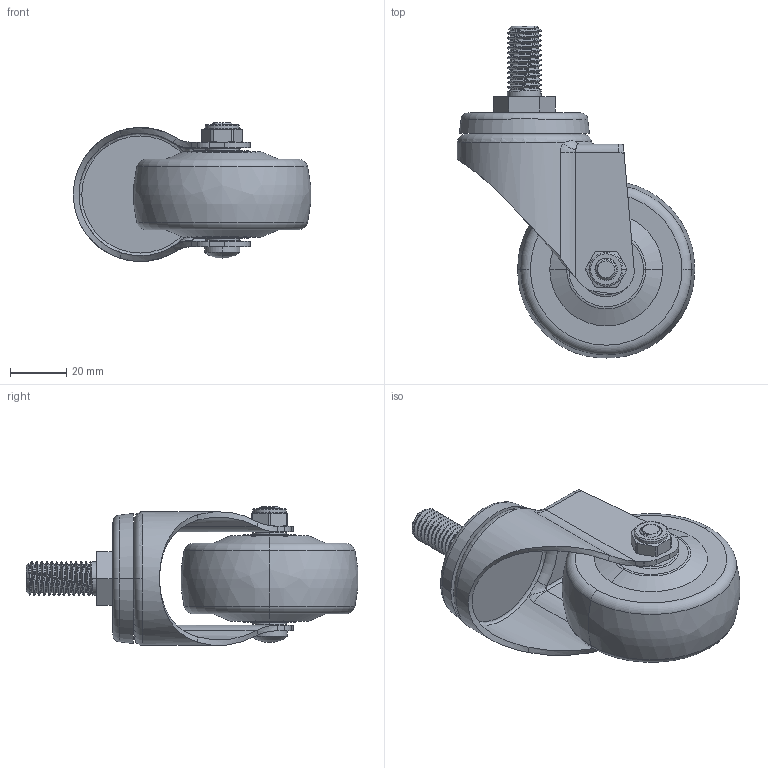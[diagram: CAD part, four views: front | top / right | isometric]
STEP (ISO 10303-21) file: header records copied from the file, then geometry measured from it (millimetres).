
FILE_DESCRIPTION((''),'2;1');
FILE_NAME('361125-3625-64_ASM','2020-01-03T',('L'),(''),'PRO/ENGINEER BY PARAMETRIC TECHNOLOGY CORPORATION, 2010280','PRO/ENGINEER BY PARAMETRIC TECHNOLOGY CORPORATION, 2010280','');
FILE_SCHEMA(('CONFIG_CONTROL_DESIGN'));
Length unit declared in the file: millimetre
Products named in the file (5): 361325; 3625-964; 350-33A; 300-34; 361125-3625-64_ASM
Assembly tree (4 placements, depth 2):
  361125-3625-64_ASM
    361325
    3625-964
    350-33A
    300-34
Bounding box: 84.11 x 117.66 x 49.22 mm (x, y, z)
Volume: 108381.5 mm3; surface area: 31577.7 mm2
Topology: 4 solids, 4 shells, 250 faces, 618 edges, 388 vertices
Faces by surface type: cylinder 94, plane 53, bspline 49, torus 28, cone 24, sphere 2
Entity records: 14895 total; most frequent: CARTESIAN_POINT 9264, ORIENTED_EDGE 1232, DIRECTION 1015, EDGE_CURVE 616, AXIS2_PLACEMENT_3D 402, VERTEX_POINT 388, EDGE_LOOP 272, FACE_OUTER_BOUND 250
